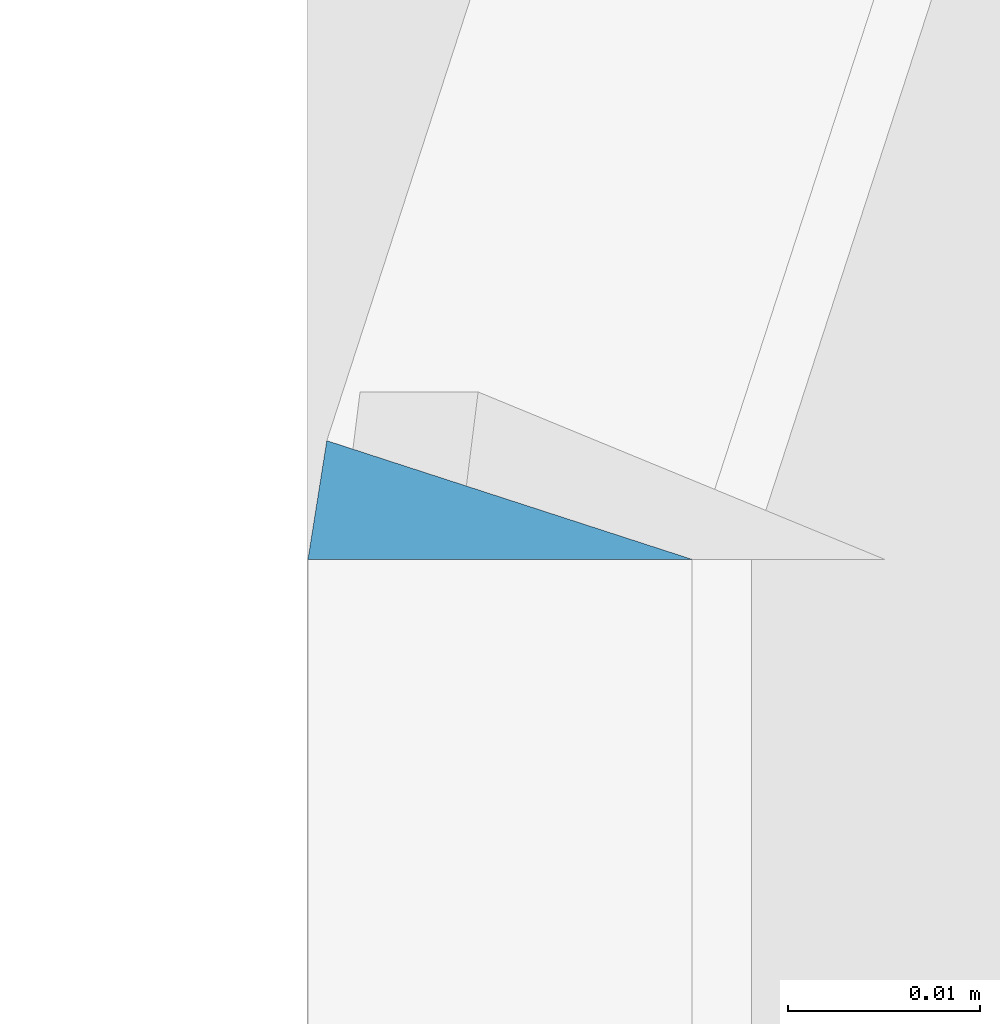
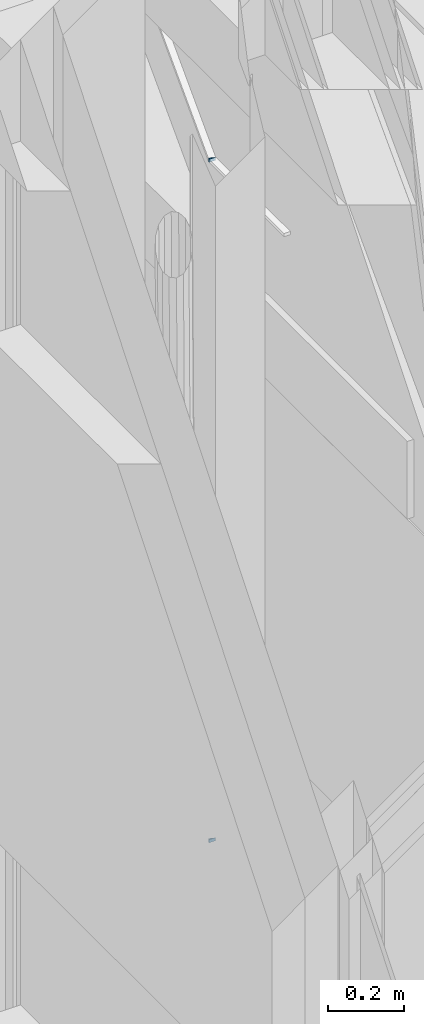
# One storey, part 320 of 583: 2 slabs.
"""IFC2X3 building model written with IfcOpenShell, lengths in metres."""

import ifcopenshell
import ifcopenshell.guid

model = None  # the IFC model being written
_history = None  # IfcOwnerHistory: only IFC2X3 demands one
_inside = {}  # id of a spatial element -> (the spatial element, [elements in it])
_under = {}  # id of a project, library or spatial element -> (it, [spatial elements below it])
_declared = {}  # id of a project -> (the project, [libraries it declares])
_typed = {}  # id of a type object -> (the type object, [elements of that type])
_made_of = {}  # id of a material, layer set ... -> (it, [elements and type objects made of it])


def new_model(schema):
    """Start an empty IFC model of exactly this schema.

    Asked for "IFC4X3", IfcOpenShell would pick the latest addendum, in which some entities
    have other attributes; the version numbers below select the first issue.
    IFC2X3 requires an IfcOwnerHistory on every rooted entity: one is made here for all.
    """
    global model, _history
    if schema == "IFC4X3":
        model = ifcopenshell.file(schema_version=(4, 3, 0, 0))
    else:
        model = ifcopenshell.file(schema=schema)
    _inside.clear()
    _under.clear()
    _declared.clear()
    _typed.clear()
    _made_of.clear()
    _history = None
    if model.schema == "IFC2X3":
        org = make("IfcOrganization", Name="unknown")
        user = make(
            "IfcPersonAndOrganization",
            ThePerson=make("IfcPerson", FamilyName="unknown"),
            TheOrganization=org,
        )
        app = make(
            "IfcApplication",
            ApplicationDeveloper=org,
            Version="unknown",
            ApplicationFullName="unknown",
            ApplicationIdentifier="unknown",
        )
        _history = make(
            "IfcOwnerHistory",
            OwningUser=user,
            OwningApplication=app,
            ChangeAction="ADDED",
            CreationDate=0,
        )
    return model


def make(cls, **values):
    """One entity of the class cls with the attributes given. An attribute that is None is left unset."""
    return model.create_entity(
        cls, **{name: value for name, value in values.items() if value is not None}
    )


def entity(cls, *values):
    """Any entity or typed value of the class cls, its attributes in the order of the schema. None: left unset."""
    e = model.create_entity(cls)
    for i, value in enumerate(values):
        if value is not None:
            e[i] = value
    return e


def rooted(cls, **values):
    """An entity with a GlobalId (a new one), such as an element, a storey or a relation."""
    return make(cls, GlobalId=ifcopenshell.guid.new(), OwnerHistory=_history, **values)


def si_unit(unit_type, name, prefix=None):
    """IfcSIUnit, for example si_unit("LENGTHUNIT", "METRE", prefix="MILLI")."""
    return make("IfcSIUnit", UnitType=unit_type, Prefix=prefix, Name=name)


def converted_unit(unit_type, name, factor, base, dimensions=None, offset=None):
    """IfcConversionBasedUnit, such as the inch: factor (a typed value) times the base unit."""
    return make(
        "IfcConversionBasedUnit"
        if offset is None
        else "IfcConversionBasedUnitWithOffset",
        ConversionOffset=offset,
        Dimensions=None
        if dimensions is None
        else entity("IfcDimensionalExponents", *dimensions),
        UnitType=unit_type,
        Name=name,
        ConversionFactor=make(
            "IfcMeasureWithUnit", ValueComponent=factor, UnitComponent=base
        ),
    )


def derived_unit(unit_type, elements):
    """IfcDerivedUnit: a product of units, each with its exponent."""
    return make(
        "IfcDerivedUnit",
        Elements=[
            make("IfcDerivedUnitElement", Unit=unit, Exponent=power)
            for unit, power in elements
        ],
        UnitType=unit_type,
    )


def money_unit(currency):
    """IfcMonetaryUnit."""
    return make("IfcMonetaryUnit", Currency=currency)


def assignment(units):
    """IfcUnitAssignment: the units of a project."""
    return None if units is None else make("IfcUnitAssignment", Units=units)


def point(xyz):
    """IfcCartesianPoint."""
    return None if xyz is None else make("IfcCartesianPoint", Coordinates=xyz)


def direction(xyz):
    """IfcDirection."""
    return None if xyz is None else make("IfcDirection", DirectionRatios=xyz)


def frame(location, z_axis=None, x_axis=None):
    """IfcAxis2Placement3D, a coordinate frame: its origin and axes. An axis left out is left unset."""
    return make(
        "IfcAxis2Placement3D",
        Location=point(location),
        Axis=direction(z_axis),
        RefDirection=direction(x_axis),
    )


def origin_with_axes():
    """The frame at (0, 0, 0) with the z axis (0, 0, 1) and the x axis (1, 0, 0) written out."""
    return frame((0.0, 0.0, 0.0), z_axis=(0.0, 0.0, 1.0), x_axis=(1.0, 0.0, 0.0))


def place(relative_to, where):
    """IfcLocalPlacement: puts the frame where relative to a parent placement (None: the world)."""
    return make(
        "IfcLocalPlacement", PlacementRelTo=relative_to, RelativePlacement=where
    )


def context(
    kind, dimensions, precision=None, world=None, true_north=None, identifier=None
):
    """IfcGeometricRepresentationContext, for example the 3D "Model" context."""
    return make(
        "IfcGeometricRepresentationContext",
        ContextIdentifier=identifier,
        ContextType=kind,
        CoordinateSpaceDimension=dimensions,
        Precision=precision,
        WorldCoordinateSystem=world,
        TrueNorth=true_north,
    )


def subcontext(parent, identifier, kind, view, scale=None):
    """IfcGeometricRepresentationSubContext, for example "Body" below "Model"."""
    return make(
        "IfcGeometricRepresentationSubContext",
        ContextIdentifier=identifier,
        ContextType=kind,
        ParentContext=parent,
        TargetScale=scale,
        TargetView=view,
    )


def project(units=None, contexts=None):
    """IfcProject with its units and contexts."""
    return rooted(
        "IfcProject",
        Name="project",
        RepresentationContexts=contexts,
        UnitsInContext=assignment(units),
    )


def spatial(cls, under=None, at=None, **own):
    """A site, building, storey or space (cls), placed at a placement, below another one or the project."""
    s = rooted(cls, ObjectPlacement=at, **own)
    if under is not None:
        _under.setdefault(under.id(), (under, []))[1].append(s)
    return s


def faces_of(points, faces, orient=None, outer=None):
    """IfcFace entities. A face is a list of loops; a loop is a list of indices into points, from 0.

    orient and outer hold one flag for each loop. By default every Orientation is true, the
    first loop of a face is its IfcFaceOuterBound and the others are IfcFaceBound.
    """
    made = []
    for i, loops in enumerate(faces):
        bounds = []
        for j, loop in enumerate(loops):
            is_outer = j == 0 if outer is None else outer[i][j]
            bounds.append(
                make(
                    "IfcFaceOuterBound" if is_outer else "IfcFaceBound",
                    Bound=make("IfcPolyLoop", Polygon=[points[k] for k in loop]),
                    Orientation=True if orient is None else orient[i][j],
                )
            )
        made.append(make("IfcFace", Bounds=bounds))
    return made


def faceted_brep(points, faces, orient=None, outer=None, voids=None):
    """IfcFacetedBrep: a solid bounded by flat faces; with voids (closed shells), ...WithVoids."""
    shared = [point(p) for p in points]
    hull = make("IfcClosedShell", CfsFaces=faces_of(shared, faces, orient, outer))
    if voids is None:
        return make("IfcFacetedBrep", Outer=hull)
    return make(
        "IfcFacetedBrepWithVoids",
        Outer=hull,
        Voids=[
            make(cls, CfsFaces=faces_of(shared, fs, o, b)) for cls, fs, o, b in voids
        ],
    )


def shape(context_of_items, identifier, shape_type, items):
    """IfcShapeRepresentation: the items that make up one representation, for example the "Body"."""
    return make(
        "IfcShapeRepresentation",
        ContextOfItems=context_of_items,
        RepresentationIdentifier=identifier,
        RepresentationType=shape_type,
        Items=items,
    )


def material(Name=None, Category=None):
    """IfcMaterial."""
    return make("IfcMaterial", Name=Name, Category=Category)


def made_of(thing, what):
    """Note that an element or type object is made of a material, layer set ...; save() writes the relation."""
    if what is not None:
        _made_of.setdefault(what.id(), (what, []))[1].append(thing)
    return thing


def type_object(cls, material=None, **own):
    """A type object (cls), such as IfcWallType, which elements share."""
    return made_of(rooted(cls, **own), material)


def element(
    cls,
    number,
    at=None,
    inside=None,
    cuts=None,
    type_object=None,
    material=None,
    context=None,
    identifier="Body",
    shape_type=None,
    held_by="IfcProductDefinitionShape",
    body=None,
    shapes=None,
    **own,
):
    """One element of the class cls, such as IfcWall. Its Tag is "e" and its number.

    at: its placement. inside: the storey or other place that contains it. cuts: it is an
    opening in that element (IfcRelVoidsElement). A single representation is given by context,
    identifier, shape_type and body (its items); several are given by shapes. held_by: the class
    of the entity that holds the representations. save() writes the other relations.
    """
    e = rooted(cls, Tag="e%d" % number, ObjectPlacement=at, **own)
    if body is not None:
        shapes = [shape(context, identifier, shape_type, body)]
    if shapes is not None:
        e.Representation = make(held_by, Representations=shapes)
    if inside is not None:
        _inside.setdefault(inside.id(), (inside, []))[1].append(e)
    if cuts is not None:
        rooted(
            "IfcRelVoidsElement", RelatingBuildingElement=cuts, RelatedOpeningElement=e
        )
    if type_object is not None:
        _typed.setdefault(type_object.id(), (type_object, []))[1].append(e)
    return made_of(e, material)


def aggregate(whole, parts):
    """IfcRelAggregates: a whole, such as a stair, and the parts it consists of."""
    return rooted("IfcRelAggregates", RelatingObject=whole, RelatedObjects=parts)


def save(model, path):
    """Write the relations noted so far, then the file.

    IfcRelAggregates (storeys below a building ...), IfcRelContainedInSpatialStructure (elements
    in a storey), IfcRelDefinesByType, IfcRelAssociatesMaterial and IfcRelDeclares: one each for
    every whole, place, type object, material and project.
    """
    for whole, parts in _under.values():
        aggregate(whole, parts)
    for where, things in _inside.values():
        rooted(
            "IfcRelContainedInSpatialStructure",
            RelatedElements=things,
            RelatingStructure=where,
        )
    for kind, things in _typed.values():
        rooted("IfcRelDefinesByType", RelatedObjects=things, RelatingType=kind)
    for what, things in _made_of.values():
        rooted("IfcRelAssociatesMaterial", RelatedObjects=things, RelatingMaterial=what)
    for by, libraries in _declared.values():
        rooted("IfcRelDeclares", RelatingContext=by, RelatedDefinitions=libraries)
    model.write(path)


model = new_model("IFC2X3")

# Units and contexts
model_context = context("Model", 3, precision=1e-05, world=origin_with_axes(), true_north=direction((0.0, 1.0)))
body_context = subcontext(model_context, "Body", "Model", "MODEL_VIEW", scale=1.0)
ifc_project = project(units=[si_unit("LENGTHUNIT", "METRE"), si_unit("AREAUNIT", "SQUARE_METRE"), si_unit("VOLUMEUNIT", "CUBIC_METRE"), si_unit("ABSORBEDDOSEUNIT", "GRAY"), si_unit("AMOUNTOFSUBSTANCEUNIT", "MOLE"), si_unit("DOSEEQUIVALENTUNIT", "SIEVERT"), si_unit("ELECTRICCAPACITANCEUNIT", "FARAD"), si_unit("ELECTRICCHARGEUNIT", "COULOMB"), si_unit("ELECTRICCONDUCTANCEUNIT", "SIEMENS"), si_unit("ELECTRICCURRENTUNIT", "AMPERE"), si_unit("ELECTRICRESISTANCEUNIT", "OHM"), si_unit("ELECTRICVOLTAGEUNIT", "VOLT"), si_unit("ENERGYUNIT", "JOULE"), si_unit("FORCEUNIT", "NEWTON"), si_unit("FREQUENCYUNIT", "HERTZ"), si_unit("ILLUMINANCEUNIT", "LUX"), si_unit("INDUCTANCEUNIT", "HENRY"), si_unit("LUMINOUSFLUXUNIT", "LUMEN"), si_unit("LUMINOUSINTENSITYUNIT", "CANDELA"), si_unit("MAGNETICFLUXDENSITYUNIT", "TESLA"), si_unit("MAGNETICFLUXUNIT", "WEBER"), si_unit("MASSUNIT", "GRAM"), converted_unit("PLANEANGLEUNIT", "degree", entity("IfcReal", 0.0174532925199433), si_unit("PLANEANGLEUNIT", "RADIAN"), dimensions=[0, 0, 0, 0, 0, 0, 0]), si_unit("POWERUNIT", "WATT"), si_unit("PRESSUREUNIT", "PASCAL"), si_unit("RADIOACTIVITYUNIT", "BECQUEREL"), si_unit("SOLIDANGLEUNIT", "STERADIAN"), si_unit("THERMODYNAMICTEMPERATUREUNIT", "KELVIN"), si_unit("TIMEUNIT", "SECOND"), derived_unit("ACCELERATIONUNIT", [(si_unit("LENGTHUNIT", "METRE"), 1), (si_unit("TIMEUNIT", "SECOND"), -2)]), derived_unit("ANGULARVELOCITYUNIT", [(converted_unit("PLANEANGLEUNIT", "degree", entity("IfcReal", 0.0174532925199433), si_unit("PLANEANGLEUNIT", "RADIAN"), dimensions=[0, 0, 0, 0, 0, 0, 0]), 1), (si_unit("TIMEUNIT", "SECOND"), -1)]), derived_unit("CURVATUREUNIT", [(converted_unit("PLANEANGLEUNIT", "degree", entity("IfcReal", 0.0174532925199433), si_unit("PLANEANGLEUNIT", "RADIAN"), dimensions=[0, 0, 0, 0, 0, 0, 0]), 1), (si_unit("LENGTHUNIT", "METRE"), -1)]), derived_unit("DYNAMICVISCOSITYUNIT", [(si_unit("PRESSUREUNIT", "PASCAL"), 1), (si_unit("TIMEUNIT", "SECOND"), 1)]), derived_unit("HEATFLUXDENSITYUNIT", [(si_unit("POWERUNIT", "WATT"), 1), (si_unit("LENGTHUNIT", "METRE"), -2)]), derived_unit("HEATINGVALUEUNIT", [(si_unit("ENERGYUNIT", "JOULE"), 1), (si_unit("MASSUNIT", "GRAM"), -1)]), derived_unit("INTEGERCOUNTRATEUNIT", [(si_unit("TIMEUNIT", "SECOND"), -1)]), derived_unit("IONCONCENTRATIONUNIT", [(si_unit("MASSUNIT", "GRAM"), 1), (si_unit("VOLUMEUNIT", "CUBIC_METRE"), -1)]), derived_unit("ISOTHERMALMOISTURECAPACITYUNIT", [(si_unit("VOLUMEUNIT", "CUBIC_METRE"), 1), (si_unit("MASSUNIT", "GRAM"), -1)]), derived_unit("KINEMATICVISCOSITYUNIT", [(si_unit("AREAUNIT", "SQUARE_METRE"), 1), (si_unit("TIMEUNIT", "SECOND"), -1)]), derived_unit("LINEARFORCEUNIT", [(si_unit("FORCEUNIT", "NEWTON"), 1), (si_unit("LENGTHUNIT", "METRE"), -1)]), derived_unit("LINEARMOMENTUNIT", [(si_unit("FORCEUNIT", "NEWTON"), 1), (si_unit("LENGTHUNIT", "METRE"), -1)]), derived_unit("LINEARSTIFFNESSUNIT", [(si_unit("FORCEUNIT", "NEWTON"), 1), (si_unit("LENGTHUNIT", "METRE"), -1)]), derived_unit("LINEARVELOCITYUNIT", [(si_unit("LENGTHUNIT", "METRE"), 1), (si_unit("TIMEUNIT", "SECOND"), -1)]), derived_unit("LUMINOUSINTENSITYDISTRIBUTIONUNIT", [(si_unit("LUMINOUSINTENSITYUNIT", "CANDELA"), 1), (si_unit("LUMINOUSFLUXUNIT", "LUMEN"), -1)]), derived_unit("MASSDENSITYUNIT", [(si_unit("MASSUNIT", "GRAM"), 1), (si_unit("VOLUMEUNIT", "CUBIC_METRE"), -1)]), derived_unit("MASSFLOWRATEUNIT", [(si_unit("MASSUNIT", "GRAM"), 1), (si_unit("TIMEUNIT", "SECOND"), -1)]), derived_unit("MASSPERLENGTHUNIT", [(si_unit("MASSUNIT", "GRAM"), 1), (si_unit("LENGTHUNIT", "METRE"), -1)]), derived_unit("MODULUSOFELASTICITYUNIT", [(si_unit("FORCEUNIT", "NEWTON"), 1), (si_unit("AREAUNIT", "SQUARE_METRE"), -1)]), derived_unit("MODULUSOFLINEARSUBGRADEREACTIONUNIT", [(si_unit("FORCEUNIT", "NEWTON"), 1), (si_unit("LENGTHUNIT", "METRE"), -2)]), derived_unit("MODULUSOFROTATIONALSUBGRADEREACTIONUNIT", [(si_unit("FORCEUNIT", "NEWTON"), 1), (si_unit("LENGTHUNIT", "METRE"), 1)]), derived_unit("MODULUSOFSUBGRADEREACTIONUNIT", [(si_unit("FORCEUNIT", "NEWTON"), 1), (si_unit("VOLUMEUNIT", "CUBIC_METRE"), -1)]), derived_unit("MOISTUREDIFFUSIVITYUNIT", [(si_unit("VOLUMEUNIT", "CUBIC_METRE"), 1), (si_unit("TIMEUNIT", "SECOND"), -1)]), derived_unit("MOLECULARWEIGHTUNIT", [(si_unit("MASSUNIT", "GRAM"), 1), (si_unit("AMOUNTOFSUBSTANCEUNIT", "MOLE"), -1)]), derived_unit("PLANARFORCEUNIT", [(si_unit("FORCEUNIT", "NEWTON"), 1), (si_unit("LENGTHUNIT", "METRE"), -2)]), derived_unit("ROTATIONALFREQUENCYUNIT", [(si_unit("TIMEUNIT", "SECOND"), -1)]), derived_unit("ROTATIONALMASSUNIT", [(si_unit("MASSUNIT", "GRAM"), 1), (si_unit("LENGTHUNIT", "METRE"), 2)]), derived_unit("ROTATIONALSTIFFNESSUNIT", [(si_unit("FORCEUNIT", "NEWTON"), 1), (si_unit("LENGTHUNIT", "METRE"), 1), (converted_unit("PLANEANGLEUNIT", "degree", entity("IfcReal", 0.0174532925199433), si_unit("PLANEANGLEUNIT", "RADIAN"), dimensions=[0, 0, 0, 0, 0, 0, 0]), -1)]), derived_unit("SECTIONAREAINTEGRALUNIT", [(si_unit("LENGTHUNIT", "METRE"), 5)]), derived_unit("SECTIONMODULUSUNIT", [(si_unit("LENGTHUNIT", "METRE"), 3)]), derived_unit("SHEARMODULUSUNIT", [(si_unit("FORCEUNIT", "NEWTON"), 1), (si_unit("AREAUNIT", "SQUARE_METRE"), -1)]), derived_unit("SOUNDPOWERUNIT", [(si_unit("ENERGYUNIT", "JOULE"), 1), (si_unit("TIMEUNIT", "SECOND"), -1)]), derived_unit("SPECIFICHEATCAPACITYUNIT", [(si_unit("FORCEUNIT", "NEWTON"), 1), (si_unit("MASSUNIT", "GRAM"), -1), (si_unit("THERMODYNAMICTEMPERATUREUNIT", "KELVIN"), -1)]), derived_unit("TEMPERATUREGRADIENTUNIT", [(si_unit("THERMODYNAMICTEMPERATUREUNIT", "KELVIN"), 1), (si_unit("LENGTHUNIT", "METRE"), -1)]), derived_unit("THERMALADMITTANCEUNIT", [(si_unit("POWERUNIT", "WATT"), 1), (si_unit("AREAUNIT", "SQUARE_METRE"), -1), (si_unit("THERMODYNAMICTEMPERATUREUNIT", "KELVIN"), -1)]), derived_unit("THERMALCONDUCTANCEUNIT", [(si_unit("POWERUNIT", "WATT"), 1), (si_unit("LENGTHUNIT", "METRE"), -1), (si_unit("THERMODYNAMICTEMPERATUREUNIT", "KELVIN"), -1)]), derived_unit("THERMALEXPANSIONCOEFFICIENTUNIT", [(si_unit("THERMODYNAMICTEMPERATUREUNIT", "KELVIN"), -1)]), derived_unit("THERMALRESISTANCEUNIT", [(si_unit("AREAUNIT", "SQUARE_METRE"), 1), (si_unit("POWERUNIT", "WATT"), -1)]), derived_unit("THERMALTRANSMITTANCEUNIT", [(si_unit("POWERUNIT", "WATT"), 1), (si_unit("AREAUNIT", "SQUARE_METRE"), -1), (si_unit("THERMODYNAMICTEMPERATUREUNIT", "KELVIN"), -1)]), derived_unit("TORQUEUNIT", [(si_unit("FORCEUNIT", "NEWTON"), 1), (si_unit("LENGTHUNIT", "METRE"), 1)]), derived_unit("VAPORPERMEABILITYUNIT", [(si_unit("MASSUNIT", "GRAM"), 1), (si_unit("TIMEUNIT", "SECOND"), -1)]), derived_unit("VOLUMETRICFLOWRATEUNIT", [(si_unit("VOLUMEUNIT", "CUBIC_METRE"), 1), (si_unit("TIMEUNIT", "SECOND"), -1)]), derived_unit("WARPINGCONSTANTUNIT", [(si_unit("LENGTHUNIT", "METRE"), 6)]), derived_unit("WARPINGMOMENTUNIT", [(si_unit("FORCEUNIT", "NEWTON"), 1), (si_unit("LENGTHUNIT", "METRE"), 2)]), money_unit("GBP")], contexts=[model_context])

# Site, building, storey
site_placement = place(None, origin_with_axes())
site = spatial("IfcSite", under=ifc_project, at=site_placement, Name="Site", CompositionType="ELEMENT")
building_placement = place(site_placement, origin_with_axes())
building = spatial("IfcBuilding", under=site, at=building_placement, Name="Building01", CompositionType="ELEMENT")
storey_placement = place(building_placement, frame((0.0, 0.0, 20.78), z_axis=(0.0, 0.0, 1.0), x_axis=(1.0, 0.0, 0.0)))
storey = spatial("IfcBuildingStorey", under=building, at=storey_placement, Name="RL", CompositionType="ELEMENT", Elevation=20.78)

# Slabs
ifc_material = material(Name="A_BSUK_Roofs")
slab_type = type_object("IfcSlabType", Name="A-FloorsSlabs A_BSUK_Slabs", PredefinedType="FLOOR")
for number, where, z_axis, x_axis, name in (
    (1, (0.500979, 16.280608, -9.464976), (0.0, 1.0, 0.0), (0.0, 0.0, 1.0), "A-FloorsSlabs A_BSUK_Slabs"),
    (2, (0.500979, 16.280608, -11.654976), (0.0, 1.0, 0.0), (0.0, 0.0, 1.0), "A-FloorsSlabs A_BSUK_Slabs"),
):
    element("IfcSlab", number, at=place(storey_placement, frame(where, z_axis=z_axis, x_axis=x_axis)), inside=storey, type_object=slab_type, material=ifc_material, Name=name, ObjectType="A-FloorsSlabs A_BSUK_Slabs", context=body_context, shape_type="Brep", body=[
        faceted_brep([(0.0, 0.0, 0.0), (-0.01, 0.0, 0.0), (-0.01, -0.000979, -0.00618), (0.0, -0.000979, -0.00618), (-0.01, 0.019021, -0.00618), (0.0, 0.019021, -0.00618)], [[[0, 1, 2, 3]], [[3, 2, 4, 5]], [[5, 4, 1, 0]], [[1, 4, 2]], [[3, 5, 0]]]),
    ])

save(model, "model.ifc")
